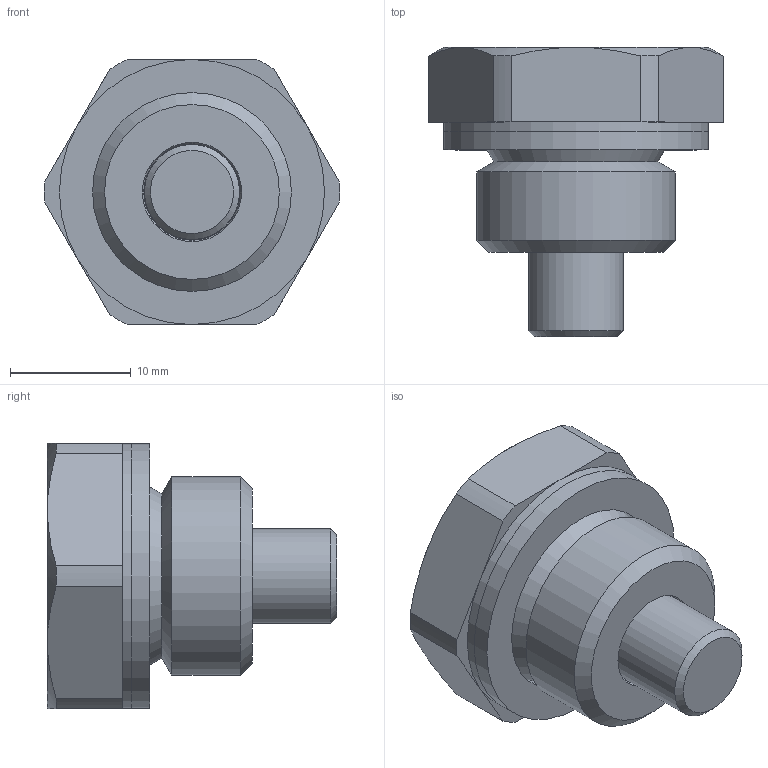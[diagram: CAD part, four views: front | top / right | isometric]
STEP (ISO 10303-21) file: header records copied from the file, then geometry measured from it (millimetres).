
FILE_DESCRIPTION(/* description */ (''),/* implementation_level */ '2;1');
FILE_NAME(/* name */ 'W:\ARCHIVIO UFFICIO TECNICO\ARTICOLI DI PRODUZIONE\COMPLESSIVI ARTICOLI STANDARD\TMA\TMA_38.stp',/* time_stamp */ '2023-09-28T08:52:26+02:00',/* author */ ('tecnico'),/* organization */ (''),/* preprocessor_version */ 'ST-DEVELOPER v18',/* originating_system */ 'Autodesk Inventor 2020',/* authorisation */ '');
FILE_SCHEMA (('AUTOMOTIVE_DESIGN { 1 0 10303 214 3 1 1 }'));
Length unit declared in the file: millimetre
Products named in the file (1): TMA_38
Bounding box: 24.5 x 24 x 22 mm (x, y, z)
Volume: 5427 mm3; surface area: 2485.8 mm2
Topology: 2 solids, 2 shells, 37 faces, 89 edges, 57 vertices
Faces by surface type: plane 17, cylinder 12, cone 8
Full cylindrical faces by diameter (mm): 7.9 x1, 8 x1, 16.2 x1, 16.5 x1, 22 x2
Entity records: 1184 total; most frequent: DIRECTION 202, CARTESIAN_POINT 195, ORIENTED_EDGE 176, EDGE_CURVE 88, AXIS2_PLACEMENT_3D 82, VERTEX_POINT 57, CIRCLE 44, EDGE_LOOP 39
